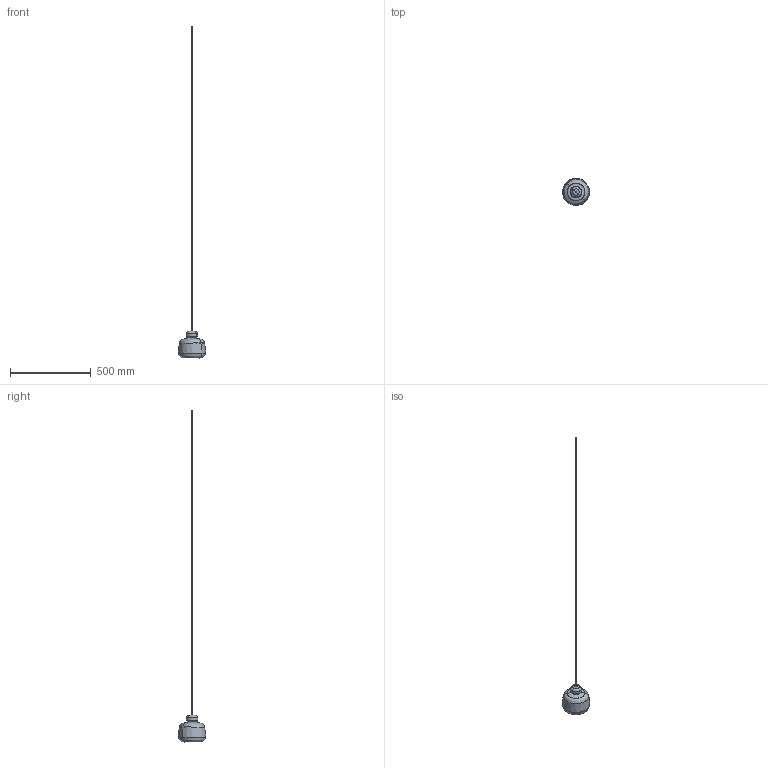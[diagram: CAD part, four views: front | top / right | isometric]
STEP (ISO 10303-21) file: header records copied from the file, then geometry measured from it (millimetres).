
FILE_DESCRIPTION(/* description */ (''),/* implementation_level */ '2;1');
FILE_NAME(/* name */ 'Stone pendant small',/* time_stamp */ '2020-03-23T11:10:50+01:00',/* author */ (''),/* organization */ (''),/* preprocessor_version */ 'ST-DEVELOPER v15',/* originating_system */ '',/* authorisation */ '');
FILE_SCHEMA (('AUTOMOTIVE_DESIGN'));
Length unit declared in the file: millimetre
Products named in the file (1): Document
Bounding box: 167.84 x 167.84 x 2054.74 mm (x, y, z)
Surface area: 195928 mm2 (no closed solid volume)
Topology: 0 solids, 49 shells, 52 faces, 248 edges, 242 vertices
Faces by surface type: bspline 52
Entity records: 13816 total; most frequent: CARTESIAN_POINT 11200, B_SPLINE_CURVE_WITH_KNOTS 372, ORIENTED_EDGE 254, PCURVE 254, DEFINITIONAL_REPRESENTATION 254, SURFACE_CURVE 248, EDGE_CURVE 248, VERTEX_POINT 242
